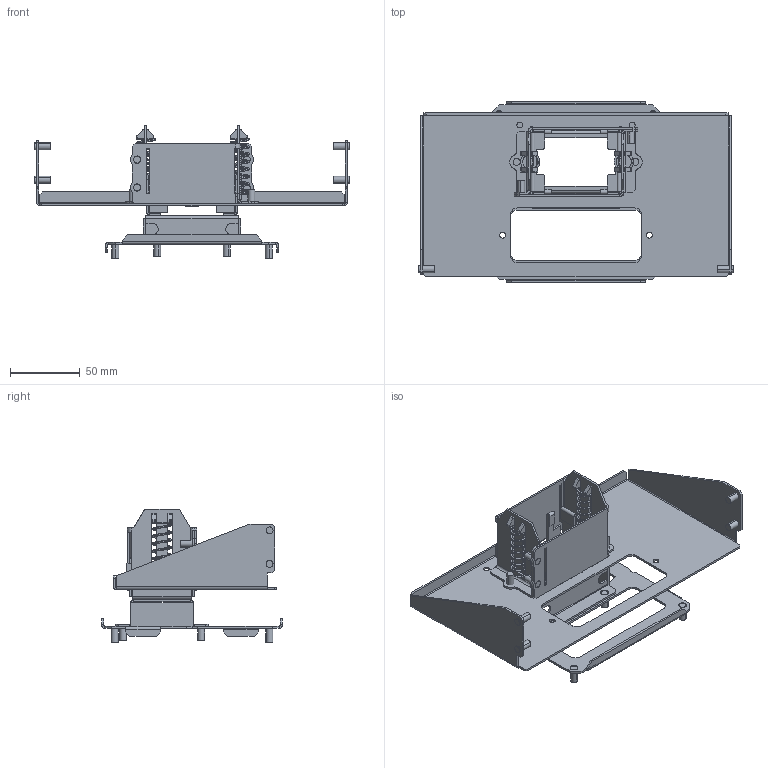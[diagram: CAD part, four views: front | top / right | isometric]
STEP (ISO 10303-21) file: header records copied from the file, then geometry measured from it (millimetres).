
FILE_DESCRIPTION(('CAx-IF Rec.Pracs.---Model Styling and Organization---1.2---2011-12-15','CAx-IF Rec.Pracs.---Geometric and Assembly Validation Properties---4.1---2014-06-16','CAx-IF Rec.Pracs.---PMI Polyline Presentation---2.0---2013-05-24'),'2;1');
FILE_NAME('R5M2W3M2BR70.stp','2021-05-05T12:15:04+03:00',(''),(''),'STEP Interface 4.4 by CT CoreTechnologie','3D_Evolution4.4 by CT CoreTechnologie','');
FILE_SCHEMA(('AUTOMOTIVE_DESIGN { 1 0 10303 214 1 1 1 1 }'));
Length unit declared in the file: millimetre
Products named in the file (9): R5M2W...M...BR; M5x8-DIN7500C_stright; RB.1571.00.00.0_In prestressed condition - 40 mm; RB.1254.00.00.0_-01; RB.1569.00.00.0_-00; RB.1570.00.00.0; RB.1353.00.00.0_-07; RB.1621.00.00.0_-00; RB.1567.00.00.0_-01
Assembly tree (31 placements, depth 2):
  R5M2W...M...BR
    M5x8-DIN7500C_stright  x18
    RB.1571.00.00.0_In prestressed condition - 40 mm  x2
    RB.1254.00.00.0_-01
    RB.1569.00.00.0_-00  x2
    RB.1570.00.00.0  x2
    RB.1353.00.00.0_-07
    RB.1621.00.00.0_-00  x4
    RB.1567.00.00.0_-01
Bounding box: 225.1 x 129.2 x 95.4 mm (x, y, z)
Surface area: 134159.1 mm2 (no closed solid volume)
Topology: 0 solids, 39 shells, 733 faces, 1874 edges, 1219 vertices
Faces by surface type: plane 512, cylinder 201, bspline 20
Entity records: 16072 total; most frequent: CARTESIAN_POINT 3872, ORIENTED_EDGE 2376, DIRECTION 2368, EDGE_CURVE 1188, VECTOR 922, LINE 922, VERTEX_POINT 767, AXIS2_PLACEMENT_3D 723
